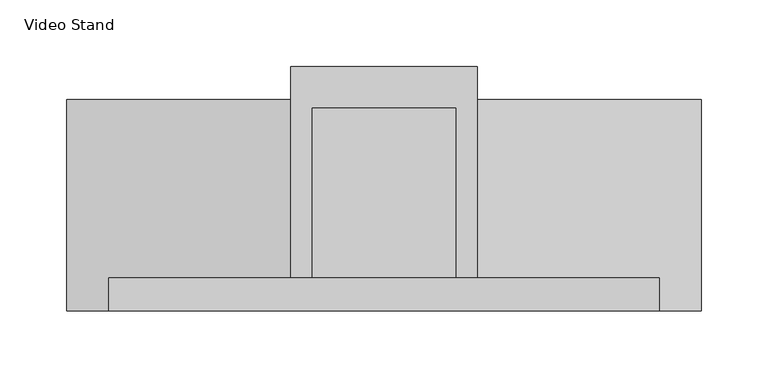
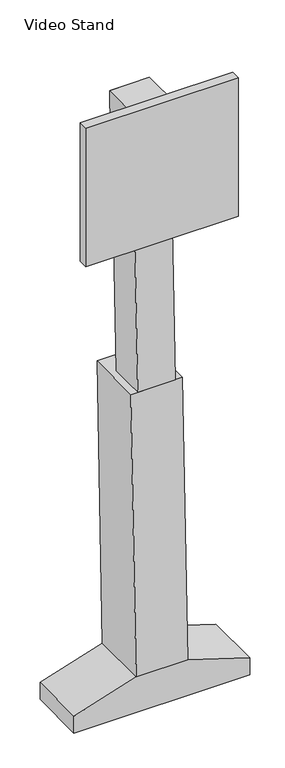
"""IFC4 building model written with IfcOpenShell, lengths in millimetres: proxy geometry, Flat_Panel_Mount-Chief-Floor_Support-Large_Capacity : Video Stand."""

from ifc_helpers import new_model, si_unit, frame, origin, place, context, project, spatial, polyline, outline, extrude, source, transform, mapped, element, save


def video_stand_8438372e(model_context):
    return source(origin(), model_context, "Body", "SweptSolid", [
        extrude(outline(polyline([(-79.7687, 1684.1978), (47.7786497, 1684.1978), (44.6300219, 1582.5978), (-57.018755, 1582.5978), (-79.7687, 1523.8978), (-79.7687, 1684.1978)])), frame((-53.975, 0.0, 0.0), z_axis=(1.0, 0.0, 0.0), x_axis=(0.0, 1.0, 0.0)), (0.0, 0.0, 1.0), 107.95),
        extrude(outline(polyline([(-206.4, -104.3813), (-206.4, -79.7687), (206.4, -79.7687), (206.4, -104.3813), (-206.4, -104.3813)])), frame((0.0, 0.0, 1325.4978), z_axis=(0.0, 0.0, 1.0), x_axis=(1.0, 0.0, 0.0)), (0.0, 0.0, 1.0), 396.8),
        extrude(outline(polyline([(-79.7687, 896.0), (-53.8701273, 1684.1978), (47.7786497, 1684.1978), (21.880077, 896.0), (-79.7687, 896.0)])), frame((-50.8, 0.0, 0.0), z_axis=(1.0, 0.0, 0.0), x_axis=(0.0, 1.0, 0.0)), (0.0, 0.0, 1.0), 101.6),
        extrude(outline(polyline([(54.3813, 101.8), (-104.3813, 101.8), (-79.7687, 896.0), (78.9939, 896.0), (54.3813, 101.8)])), frame((-69.85, 0.0, 0.0), z_axis=(1.0, 0.0, 0.0), x_axis=(0.0, 1.0, 0.0)), (0.0, 0.0, 1.0), 139.7),
        extrude(outline(polyline([(0.0, 238.1504), (48.6972619, 238.1504), (101.8, 69.85), (101.8, -69.85), (48.6972619, -238.1504), (0.0, -238.1504), (0.0, 238.1504)])), frame((0.0, -104.3813, 0.0), z_axis=(0.0, 1.0, 0.0), x_axis=(0.0, 0.0, 1.0)), (0.0, 0.0, 1.0), 158.7626),
    ])


if __name__ == "__main__":
    model = new_model("IFC4")
    model_context = context("Model", 3, world=origin())
    ifc_project = project(units=[si_unit("LENGTHUNIT", "METRE", prefix="MILLI")], contexts=[model_context])
    site = spatial("IfcSite", under=ifc_project)
    building = spatial("IfcBuilding", under=site)
    placement = place(None, origin())
    video_stand_shape = video_stand_8438372e(model_context)
    element("IfcBuildingElementProxy", 1, Name="Flat_Panel_Mount-Chief-Floor_Support-Large_Capacity : Video Stand", ObjectType="Flat_Panel_Mount-Chief-Floor_Support-Large_Capacity : Video Stand", at=placement, inside=building, context=model_context, shape_type="MappedRepresentation", body=[
        mapped(video_stand_shape, transform((0.0, 0.0, 0.0), x_axis=(1.0, 0.0, 0.0), y_axis=(0.0, 1.0, 0.0), z_axis=(0.0, 0.0, 1.0))),
    ])
    save(model, "model.ifc")
